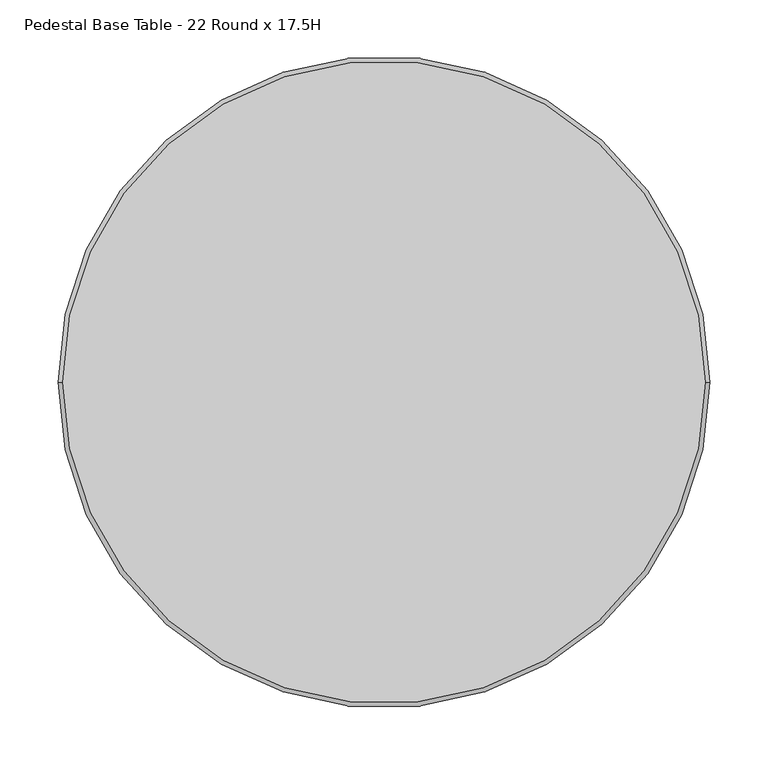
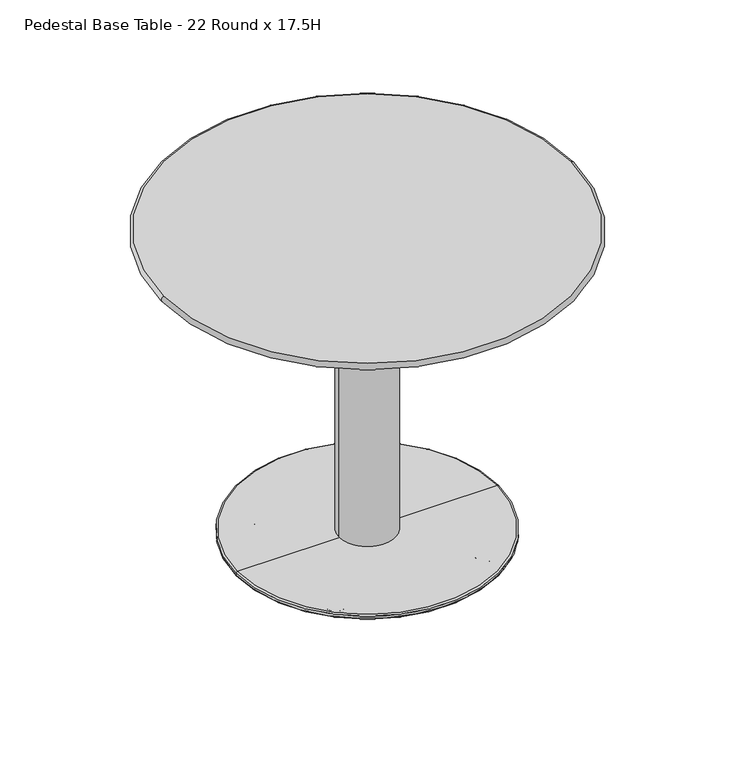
"""IFC4 building model written with IfcOpenShell, lengths in millimetres: furniture geometry, Integra - Coastal Collection - Coastal Metal Tables - Freestanding Table : Pedestal Base Table - 22 Round x 17.5H."""

from ifc_helpers import new_model, si_unit, point, frame, origin, origin_2d, place, context, project, spatial, circle_curve, ellipse_curve, trimmed, segment, composite_curve, outline, extrude, source, transform, mapped, element, save
from ifc_brep_helpers import plane_surface, cylinder_surface, revolved_surface, advanced_brep


def pedestal_base_table_22_round_x_17_5h_480383c4(model_context):
    return source(origin(), model_context, "Body", "SolidModel", [
        advanced_brep(
        [(177.8, 0.0, 14.2991915), (-177.8, 0.0, 14.2991915), (-176.2125, 0.0, 15.8866915), (176.2125, 0.0, 15.8866915), (177.8, 0.0, 11.1241915), (-177.8, 0.0, 11.1241915), (176.2125, 0.0, 9.5366915), (-176.2125, 0.0, 9.5366915), (0.0, 0.0, 9.5366915), (0.0, 0.0, 15.8866915)],
        [
            (0, 1, circle_curve(frame((0.0, 0.0, 14.2991915), z_axis=(0.0, 0.0, 1.0), x_axis=(-1.0, 0.0, 0.0)), 177.8)),
            (1, 2, circle_curve(frame((-176.2125, 0.0, 14.2991915), z_axis=(0.0, 1.0, 0.0), x_axis=(1.0, 0.0, 0.0)), 1.5875)),
            (2, 3, circle_curve(frame((0.0, 0.0, 15.8866915), z_axis=(0.0, 0.0, -1.0), x_axis=(-1.0, 0.0, 0.0)), 176.2125)),
            (3, 0, circle_curve(frame((176.2125, 0.0, 14.2991915), z_axis=(0.0, 1.0, 0.0), x_axis=(-1.0, 0.0, 0.0)), 1.5875)),
            (1, 0, circle_curve(frame((0.0, 0.0, 14.2991915), z_axis=(0.0, 0.0, 1.0), x_axis=(-1.0, 0.0, 0.0)), 177.8)),
            (3, 2, circle_curve(frame((0.0, 0.0, 15.8866915), z_axis=(0.0, 0.0, -1.0), x_axis=(-1.0, 0.0, 0.0)), 176.2125)),
            (4, 5, circle_curve(frame((0.0, 0.0, 11.1241915), z_axis=(0.0, 0.0, 1.0), x_axis=(-1.0, 0.0, 0.0)), 177.8)),
            (5, 1),
            (0, 4),
            (5, 4, circle_curve(frame((0.0, 0.0, 11.1241915), z_axis=(0.0, 0.0, 1.0), x_axis=(-1.0, 0.0, 0.0)), 177.8)),
            (6, 7, circle_curve(frame((0.0, 0.0, 9.5366915), z_axis=(0.0, 0.0, 1.0), x_axis=(-1.0, 0.0, 0.0)), 176.2125)),
            (7, 5, circle_curve(frame((-176.2125, 0.0, 11.1241915), z_axis=(0.0, 1.0, 0.0), x_axis=(1.0, 0.0, 0.0)), 1.5875)),
            (4, 6, circle_curve(frame((176.2125, 0.0, 11.1241915), z_axis=(0.0, 1.0, 0.0), x_axis=(-1.0, 0.0, 0.0)), 1.5875)),
            (7, 6, circle_curve(frame((0.0, 0.0, 9.5366915), z_axis=(0.0, 0.0, 1.0), x_axis=(-1.0, 0.0, 0.0)), 176.2125)),
            (8, 7),
            (6, 8),
            (2, 9),
            (9, 3),
        ],
        [
            revolved_surface(trimmed(ellipse_curve(frame((-176.2125, 0.0, 14.2991915), z_axis=(0.0, -1.0, 0.0), x_axis=(1.0, 0.0, 0.0)), 1.5875, 1.5875), [point((-176.2125, 0.0, 15.8866915))], [point((-177.8, 0.0, 14.2991915))], True, "CARTESIAN"), (0.0, 0.0, 15.8866915), (0.0, 0.0, -1.0)),
            cylinder_surface(frame((0.0, 0.0, 15.8866915), z_axis=(0.0, 0.0, -1.0), x_axis=(-1.0, 0.0, 0.0)), 177.8),
            revolved_surface(trimmed(ellipse_curve(frame((-176.2125, 0.0, 11.1241915), z_axis=(0.0, -1.0, 0.0), x_axis=(1.0, 0.0, 0.0)), 1.5875, 1.5875), [point((-177.8, 0.0, 11.1241915))], [point((-176.2125, 0.0, 9.5366915))], True, "CARTESIAN"), (0.0, 0.0, 15.8866915), (0.0, 0.0, -1.0)),
            plane_surface(frame((0.0, 0.0, 9.5366915), z_axis=(0.0, 0.0, -1.0), x_axis=(-1.0, 0.0, 0.0))),
            plane_surface(frame((0.0, 0.0, 15.8866915), z_axis=(0.0, 0.0, 1.0), x_axis=(-1.0, 0.0, 0.0))),
        ],
        [
            (0, [[1, 2, 3, 4]]),
            (0, [[5, -4, 6, -2]]),
            (1, [[7, 8, -1, 9]]),
            (1, [[10, -9, -5, -8]]),
            (2, [[11, 12, -7, 13]]),
            (2, [[14, -13, -10, -12]]),
            (3, [[15, -11, 16]]),
            (3, [[-16, -14, -15]]),
            (4, [[-3, 17, 18]]),
            (4, [[-6, -18, -17]]),
        ],
    ),
        extrude(outline(composite_curve([segment(trimmed(circle_curve(origin_2d(), 38.1), [point((-38.1, 0.0))], [point((38.1, 0.0))], False, "CARTESIAN"), True, "CONTINUOUS"), segment(trimmed(circle_curve(origin_2d(), 38.1), [point((38.1, 0.0))], [point((-38.1, 0.0))], False, "CARTESIAN"), True, "CONTINUOUS")], self_intersect=False)), frame((0.0, 0.0, 15.8866915), z_axis=(0.0, 0.0, 1.0), x_axis=(1.0, 0.0, 0.0)), (0.0, 0.0, 1.0), 409.5633025),
        advanced_brep(
        [(-253.984015, 0.0, 431.7999939), (253.984015, 0.0, 431.7999939), (275.4380192, 0.0, 444.5), (-275.4380192, 0.0, 444.5), (277.1187402, 0.0, 436.9501969), (-277.1187402, 0.0, 436.9501969)],
        [
            (0, 1, circle_curve(frame((0.0, 0.0, 431.7999939), z_axis=(0.0, 0.0, -1.0), x_axis=(1.0, 0.0, 0.0)), 253.984015)),
            (1, 0, circle_curve(frame((0.0, 0.0, 431.7999939), z_axis=(0.0, 0.0, -1.0), x_axis=(-1.0, 0.0, 0.0)), 253.984015)),
            (2, 3, circle_curve(frame((0.0, 0.0, 444.5), z_axis=(0.0, 0.0, 1.0), x_axis=(1.0, 0.0, 0.0)), 275.4380192)),
            (3, 2, circle_curve(frame((0.0, 0.0, 444.5), z_axis=(0.0, 0.0, 1.0), x_axis=(-1.0, 0.0, 0.0)), 275.4380192)),
            (2, 4, circle_curve(frame((275.4380192, 0.0, 440.5380192), z_axis=(0.0, 1.0, 0.0), x_axis=(-1.0, 0.0, 0.0)), 3.9619808)),
            (4, 5, circle_curve(frame((0.0, 0.0, 436.9501969), z_axis=(0.0, 0.0, 1.0), x_axis=(1.0, 0.0, 0.0)), 277.1187402)),
            (5, 3, circle_curve(frame((-275.4380192, 0.0, 440.5380192), z_axis=(0.0, 1.0, 0.0), x_axis=(1.0, 0.0, 0.0)), 3.9619808)),
            (4, 1, circle_curve(frame((253.984015, 0.0, 486.3357186), z_axis=(0.0, 1.0, 0.0), x_axis=(-1.0, 0.0, 0.0)), 54.5357246)),
            (0, 5, circle_curve(frame((-253.984015, 0.0, 486.3357186), z_axis=(0.0, 1.0, 0.0), x_axis=(1.0, 0.0, 0.0)), 54.5357246)),
            (5, 4, circle_curve(frame((0.0, 0.0, 436.9501969), z_axis=(0.0, 0.0, 1.0), x_axis=(-1.0, 0.0, 0.0)), 277.1187402)),
        ],
        [
            plane_surface(frame((-25.4, 0.0, 431.7999939), z_axis=(0.0, 0.0, -1.0), x_axis=(0.0, 1.0, 0.0))),
            plane_surface(frame((-25.4, 0.0, 444.5), z_axis=(0.0, 0.0, 1.0), x_axis=(0.0, -1.0, 0.0))),
            revolved_surface(trimmed(ellipse_curve(frame((275.4380192, 0.0, 440.5380192), z_axis=(0.0, -1.0, 0.0), x_axis=(-1.0, 0.0, 0.0)), 3.9619808, 3.9619808), [point((277.1187402, 0.0, 436.9501969))], [point((275.4380192, 0.0, 444.5))], True, "CARTESIAN"), (0.0, 0.0, 444.5), (0.0, 0.0, 1.0)),
            revolved_surface(trimmed(ellipse_curve(frame((253.984015, 0.0, 486.3357186), z_axis=(0.0, -1.0, 0.0), x_axis=(-1.0, 0.0, 0.0)), 54.5357246, 54.5357246), [point((253.984015, 0.0, 431.7999939))], [point((277.1187402, 0.0, 436.9501969))], True, "CARTESIAN"), (0.0, 0.0, 444.5), (0.0, 0.0, 1.0)),
            revolved_surface(trimmed(ellipse_curve(frame((-275.4380192, 0.0, 440.5380192), z_axis=(0.0, 1.0, 0.0), x_axis=(1.0, 0.0, 0.0)), 3.9619808, 3.9619808), [point((-277.1187402, 0.0, 436.9501969))], [point((-275.4380192, 0.0, 444.5))], True, "CARTESIAN"), (0.0, 0.0, 444.5), (0.0, 0.0, 1.0)),
            revolved_surface(trimmed(ellipse_curve(frame((-253.984015, 0.0, 486.3357186), z_axis=(0.0, 1.0, 0.0), x_axis=(1.0, 0.0, 0.0)), 54.5357246, 54.5357246), [point((-253.984015, 0.0, 431.7999939))], [point((-277.1187402, 0.0, 436.9501969))], True, "CARTESIAN"), (0.0, 0.0, 444.5), (0.0, 0.0, 1.0)),
        ],
        [
            (0, [[1, 2]]),
            (1, [[3, 4]]),
            (2, [[-3, 5, 6, 7]]),
            (3, [[-6, 8, -1, 9]]),
            (4, [[-5, -4, -7, 10]]),
            (5, [[-8, -10, -9, -2]]),
        ],
    ),
        extrude(outline(composite_curve([segment(trimmed(circle_curve(origin_2d(), 254.0), [point((-254.0, 0.0))], [point((254.0, 0.0))], False, "CARTESIAN"), True, "CONTINUOUS"), segment(trimmed(circle_curve(origin_2d(), 254.0), [point((254.0, 0.0))], [point((-254.0, 0.0))], False, "CARTESIAN"), True, "CONTINUOUS")], self_intersect=False)), frame((0.0, 0.0, 425.4499939), z_axis=(0.0, 0.0, 1.0), x_axis=(1.0, 0.0, 0.0)), (0.0, 0.0, 1.0), 6.35),
        advanced_brep(
        [(-117.2443939, 101.6, 9.5239742), (-85.9556061, 101.6, 9.5239742), (-101.6, 101.6, 9.5239742), (-107.7193939, 101.6, -0.0010258), (-95.4806061, 101.6, -0.0010258), (-101.6, 101.6, -0.0010258)],
        [
            (0, 1, circle_curve(frame((-101.6, 101.6, 9.5239742), z_axis=(0.0, 0.0, 1.0), x_axis=(1.0, 0.0, 0.0)), 15.6443939)),
            (1, 2),
            (2, 0),
            (1, 0, circle_curve(frame((-101.6, 101.6, 9.5239742), z_axis=(0.0, 0.0, 1.0), x_axis=(1.0, 0.0, 0.0)), 15.6443939)),
            (3, 4, circle_curve(frame((-101.6, 101.6, -0.0010258), z_axis=(0.0, 0.0, 1.0), x_axis=(1.0, 0.0, 0.0)), 6.1193939)),
            (4, 1, circle_curve(frame((-95.4806061, 101.6, 9.5239742), z_axis=(0.0, -1.0, 0.0), x_axis=(1.0, 0.0, 0.0)), 9.525)),
            (0, 3, circle_curve(frame((-107.7193939, 101.6, 9.5239742), z_axis=(0.0, -1.0, 0.0), x_axis=(-1.0, 0.0, 0.0)), 9.525)),
            (4, 3, circle_curve(frame((-101.6, 101.6, -0.0010258), z_axis=(0.0, 0.0, 1.0), x_axis=(1.0, 0.0, 0.0)), 6.1193939)),
            (5, 4),
            (3, 5),
        ],
        [
            plane_surface(frame((-101.6, 101.6, 9.5239742), z_axis=(0.0, 0.0, 1.0), x_axis=(1.0, 0.0, 0.0))),
            revolved_surface(trimmed(ellipse_curve(frame((-95.4806061, 101.6, 9.5239742), z_axis=(0.0, 1.0, 0.0), x_axis=(1.0, 0.0, 0.0)), 9.525, 9.525), [point((-85.9556061, 101.6, 9.5239742))], [point((-95.4806061, 101.6, -0.0010258))], True, "CARTESIAN"), (-101.6, 101.6, -0.0010258), (0.0, 0.0, -1.0)),
            plane_surface(frame((-101.6, 101.6, -0.0010258), z_axis=(0.0, 0.0, -1.0), x_axis=(1.0, 0.0, 0.0))),
        ],
        [
            (0, [[1, 2, 3]]),
            (0, [[4, -3, -2]]),
            (1, [[5, 6, -1, 7]]),
            (1, [[8, -7, -4, -6]]),
            (2, [[9, -5, 10]]),
            (2, [[-10, -8, -9]]),
        ],
    ),
        advanced_brep(
        [(-101.6, -101.6, 9.5239742), (-85.9556061, -101.6, 9.5239742), (-117.2443939, -101.6, 9.5239742), (-95.4806061, -101.6, -0.0010258), (-107.7193939, -101.6, -0.0010258), (-101.6, -101.6, -0.0010258)],
        [
            (0, 1),
            (1, 2, circle_curve(frame((-101.6, -101.6, 9.5239742), z_axis=(0.0, 0.0, 1.0), x_axis=(1.0, 0.0, 0.0)), 15.6443939)),
            (2, 0),
            (2, 1, circle_curve(frame((-101.6, -101.6, 9.5239742), z_axis=(0.0, 0.0, 1.0), x_axis=(1.0, 0.0, 0.0)), 15.6443939)),
            (1, 3, circle_curve(frame((-95.4806061, -101.6, 9.5239742), z_axis=(0.0, 1.0, 0.0), x_axis=(1.0, 0.0, 0.0)), 9.525)),
            (3, 4, circle_curve(frame((-101.6, -101.6, -0.0010258), z_axis=(0.0, 0.0, 1.0), x_axis=(1.0, 0.0, 0.0)), 6.1193939)),
            (4, 2, circle_curve(frame((-107.7193939, -101.6, 9.5239742), z_axis=(0.0, 1.0, 0.0), x_axis=(-1.0, 0.0, 0.0)), 9.525)),
            (4, 3, circle_curve(frame((-101.6, -101.6, -0.0010258), z_axis=(0.0, 0.0, 1.0), x_axis=(1.0, 0.0, 0.0)), 6.1193939)),
            (3, 5),
            (5, 4),
        ],
        [
            plane_surface(frame((-101.6, -101.6, 9.5239742), z_axis=(0.0, 0.0, 1.0), x_axis=(1.0, 0.0, 0.0))),
            revolved_surface(trimmed(ellipse_curve(frame((-95.4806061, -101.6, 9.5239742), z_axis=(0.0, -1.0, 0.0), x_axis=(1.0, 0.0, 0.0)), 9.525, 9.525), [point((-95.4806061, -101.6, -0.0010258))], [point((-85.9556061, -101.6, 9.5239742))], True, "CARTESIAN"), (-101.6, -101.6, -0.0010258), (0.0, 0.0, 1.0)),
            plane_surface(frame((-101.6, -101.6, -0.0010258), z_axis=(0.0, 0.0, -1.0), x_axis=(1.0, 0.0, 0.0))),
        ],
        [
            (0, [[1, 2, 3]]),
            (0, [[-3, 4, -1]]),
            (1, [[-2, 5, 6, 7]]),
            (1, [[-4, -7, 8, -5]]),
            (2, [[-6, 9, 10]]),
            (2, [[-8, -10, -9]]),
        ],
    ),
        advanced_brep(
        [(101.6, 101.6, 9.5239742), (85.9556061, 101.6, 9.5239742), (117.2443939, 101.6, 9.5239742), (95.4806061, 101.6, -0.0010258), (107.7193939, 101.6, -0.0010258), (101.6, 101.6, -0.0010258)],
        [
            (0, 1),
            (1, 2, circle_curve(frame((101.6, 101.6, 9.5239742), z_axis=(0.0, 0.0, 1.0), x_axis=(-1.0, 0.0, 0.0)), 15.6443939)),
            (2, 0),
            (2, 1, circle_curve(frame((101.6, 101.6, 9.5239742), z_axis=(0.0, 0.0, 1.0), x_axis=(-1.0, 0.0, 0.0)), 15.6443939)),
            (1, 3, circle_curve(frame((95.4806061, 101.6, 9.5239742), z_axis=(0.0, -1.0, 0.0), x_axis=(-1.0, 0.0, 0.0)), 9.525)),
            (3, 4, circle_curve(frame((101.6, 101.6, -0.0010258), z_axis=(0.0, 0.0, 1.0), x_axis=(-1.0, 0.0, 0.0)), 6.1193939)),
            (4, 2, circle_curve(frame((107.7193939, 101.6, 9.5239742), z_axis=(0.0, -1.0, 0.0), x_axis=(1.0, 0.0, 0.0)), 9.525)),
            (4, 3, circle_curve(frame((101.6, 101.6, -0.0010258), z_axis=(0.0, 0.0, 1.0), x_axis=(-1.0, 0.0, 0.0)), 6.1193939)),
            (3, 5),
            (5, 4),
        ],
        [
            plane_surface(frame((101.6, 101.6, 9.5239742), z_axis=(0.0, 0.0, 1.0), x_axis=(-1.0, 0.0, 0.0))),
            revolved_surface(trimmed(ellipse_curve(frame((95.4806061, 101.6, 9.5239742), z_axis=(0.0, 1.0, 0.0), x_axis=(-1.0, 0.0, 0.0)), 9.525, 9.525), [point((95.4806061, 101.6, -0.0010258))], [point((85.9556061, 101.6, 9.5239742))], True, "CARTESIAN"), (101.6, 101.6, -0.0010258), (0.0, 0.0, 1.0)),
            plane_surface(frame((101.6, 101.6, -0.0010258), z_axis=(0.0, 0.0, -1.0), x_axis=(-1.0, 0.0, 0.0))),
        ],
        [
            (0, [[1, 2, 3]]),
            (0, [[-3, 4, -1]]),
            (1, [[-2, 5, 6, 7]]),
            (1, [[-4, -7, 8, -5]]),
            (2, [[-6, 9, 10]]),
            (2, [[-8, -10, -9]]),
        ],
    ),
        advanced_brep(
        [(117.2443939, -101.6, 9.5239742), (85.9556061, -101.6, 9.5239742), (101.6, -101.6, 9.5239742), (107.7193939, -101.6, -0.0010258), (95.4806061, -101.6, -0.0010258), (101.6, -101.6, -0.0010258)],
        [
            (0, 1, circle_curve(frame((101.6, -101.6, 9.5239742), z_axis=(0.0, 0.0, 1.0), x_axis=(-1.0, 0.0, 0.0)), 15.6443939)),
            (1, 2),
            (2, 0),
            (1, 0, circle_curve(frame((101.6, -101.6, 9.5239742), z_axis=(0.0, 0.0, 1.0), x_axis=(-1.0, 0.0, 0.0)), 15.6443939)),
            (3, 4, circle_curve(frame((101.6, -101.6, -0.0010258), z_axis=(0.0, 0.0, 1.0), x_axis=(-1.0, 0.0, 0.0)), 6.1193939)),
            (4, 1, circle_curve(frame((95.4806061, -101.6, 9.5239742), z_axis=(0.0, 1.0, 0.0), x_axis=(-1.0, 0.0, 0.0)), 9.525)),
            (0, 3, circle_curve(frame((107.7193939, -101.6, 9.5239742), z_axis=(0.0, 1.0, 0.0), x_axis=(1.0, 0.0, 0.0)), 9.525)),
            (4, 3, circle_curve(frame((101.6, -101.6, -0.0010258), z_axis=(0.0, 0.0, 1.0), x_axis=(-1.0, 0.0, 0.0)), 6.1193939)),
            (5, 4),
            (3, 5),
        ],
        [
            plane_surface(frame((101.6, -101.6, 9.5239742), z_axis=(0.0, 0.0, 1.0), x_axis=(-1.0, 0.0, 0.0))),
            revolved_surface(trimmed(ellipse_curve(frame((95.4806061, -101.6, 9.5239742), z_axis=(0.0, -1.0, 0.0), x_axis=(-1.0, 0.0, 0.0)), 9.525, 9.525), [point((85.9556061, -101.6, 9.5239742))], [point((95.4806061, -101.6, -0.0010258))], True, "CARTESIAN"), (101.6, -101.6, -0.0010258), (0.0, 0.0, -1.0)),
            plane_surface(frame((101.6, -101.6, -0.0010258), z_axis=(0.0, 0.0, -1.0), x_axis=(-1.0, 0.0, 0.0))),
        ],
        [
            (0, [[1, 2, 3]]),
            (0, [[4, -3, -2]]),
            (1, [[5, 6, -1, 7]]),
            (1, [[8, -7, -4, -6]]),
            (2, [[9, -5, 10]]),
            (2, [[-10, -8, -9]]),
        ],
    ),
    ])


if __name__ == "__main__":
    model = new_model("IFC4")
    model_context = context("Model", 3, world=origin())
    ifc_project = project(units=[si_unit("LENGTHUNIT", "METRE", prefix="MILLI")], contexts=[model_context])
    site = spatial("IfcSite", under=ifc_project)
    building = spatial("IfcBuilding", under=site)
    placement = place(None, origin())
    pedestal_base_table_22_round_x_17_5h_shape = pedestal_base_table_22_round_x_17_5h_480383c4(model_context)
    element("IfcFurniture", 1, ObjectType="Integra - Coastal Collection - Coastal Metal Tables - Freestanding Table : Pedestal Base Table - 22 Round x 17.5H", at=placement, inside=building, context=model_context, shape_type="MappedRepresentation", body=[
        mapped(pedestal_base_table_22_round_x_17_5h_shape, transform((0.0, 0.0, 0.0), x_axis=(1.0, 0.0, 0.0), y_axis=(0.0, 1.0, 0.0), z_axis=(0.0, 0.0, 1.0))),
    ])
    save(model, "model.ifc")
